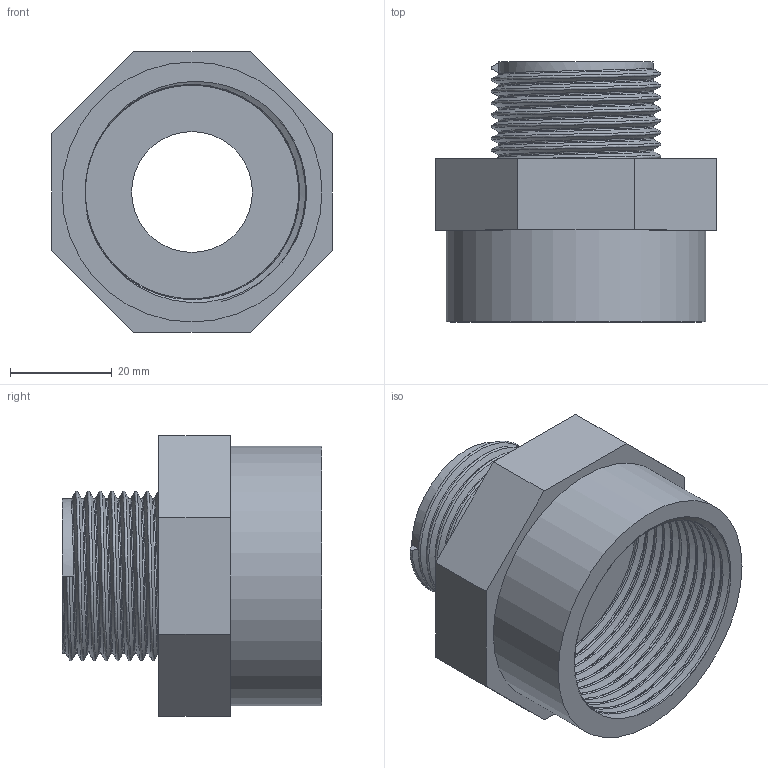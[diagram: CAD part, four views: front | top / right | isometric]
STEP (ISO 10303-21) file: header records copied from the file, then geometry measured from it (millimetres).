
FILE_DESCRIPTION(/* description */ ('PVC riduzione filettata BSP femmina-maschio (maggioratore filettato BSP M-F)'),/* implementation_level */ '2;1');
FILE_NAME(/* name */ 'C:\Users\POLYPIPE\Desktop\DATASET INVENTOR\LIBRERIA EFFAST\RACCORDI 3DxWEB\RER\3D_RERMGE\3D_RERMGE032E.stp',/* time_stamp */ '2018-01-19T16:40:02+01:00',/* author */ ('POLYPIPE'),/* organization */ ('Polypipe Italia s.r.l.'),/* preprocessor_version */ 'ST-DEVELOPER v16.1',/* originating_system */ 'Autodesk Inventor 2016',/* authorisation */ '');
FILE_SCHEMA (('CONFIG_CONTROL_DESIGN'));
Length unit declared in the file: millimetre
Products named in the file (1): 3D_RERMGE
Bounding box: 55 x 51 x 55 mm (x, y, z)
Volume: 38691.9 mm3; surface area: 20194.5 mm2
Topology: 1 solids, 1 shells, 30 faces, 70 edges, 45 vertices
Faces by surface type: plane 15, bspline 10, cylinder 5
Full cylindrical faces by diameter (mm): 23.7 x1, 30.291 x1, 51 x1
Entity records: 7754 total; most frequent: CARTESIAN_POINT 7116, ORIENTED_EDGE 134, DIRECTION 99, EDGE_CURVE 67, VERTEX_POINT 44, EDGE_LOOP 37, AXIS2_PLACEMENT_3D 34, LINE 31
